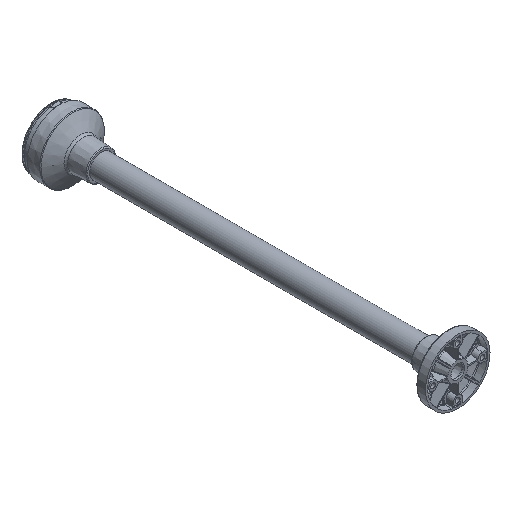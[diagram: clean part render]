
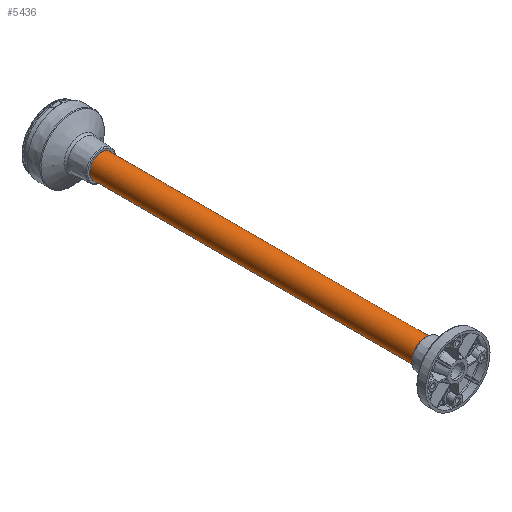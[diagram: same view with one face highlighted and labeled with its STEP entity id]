
A CAD part, isometric view. The second image highlights one B-rep face of the part: STEP entity #5436.
In plain terms, the highlighted cylindrical face has radius 12.7 mm (diameter 25.4 mm), a full revolution.
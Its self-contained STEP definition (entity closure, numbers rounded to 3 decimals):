
#4827=CYLINDRICAL_SURFACE('',#24119,12.7);
#5090=FACE_BOUND('',#8758,.T.);
#5091=FACE_BOUND('',#8759,.T.);
#5436=ADVANCED_FACE('',(#5090,#5091),#4827,.T.);
#8758=EDGE_LOOP('',(#10327,#10328,#10329,#10330));
#8759=EDGE_LOOP('',(#10331,#10332,#10333,#10334));
#10327=ORIENTED_EDGE('',*,*,#19621,.F.);
#10328=ORIENTED_EDGE('',*,*,#19622,.T.);
#10329=ORIENTED_EDGE('',*,*,#19620,.F.);
#10330=ORIENTED_EDGE('',*,*,#19623,.T.);
#10331=ORIENTED_EDGE('',*,*,#19616,.T.);
#10332=ORIENTED_EDGE('',*,*,#19624,.T.);
#10333=ORIENTED_EDGE('',*,*,#19618,.T.);
#10334=ORIENTED_EDGE('',*,*,#19625,.T.);
#17341=VERTEX_POINT('',#32768);
#17342=VERTEX_POINT('',#32769);
#17343=VERTEX_POINT('',#32773);
#17344=VERTEX_POINT('',#32774);
#17345=VERTEX_POINT('',#32778);
#17346=VERTEX_POINT('',#32779);
#17347=VERTEX_POINT('',#32783);
#17348=VERTEX_POINT('',#32784);
#19616=EDGE_CURVE('',#17342,#17341,#23126,.T.);
#19618=EDGE_CURVE('',#17344,#17343,#23128,.T.);
#19620=EDGE_CURVE('',#17345,#17346,#23130,.T.);
#19621=EDGE_CURVE('',#17347,#17348,#23131,.T.);
#19622=EDGE_CURVE('',#17347,#17346,#23132,.T.);
#19623=EDGE_CURVE('',#17345,#17348,#23133,.T.);
#19624=EDGE_CURVE('',#17341,#17344,#23134,.T.);
#19625=EDGE_CURVE('',#17343,#17342,#23135,.T.);
#23126=CIRCLE('',#24106,12.7);
#23128=CIRCLE('',#24109,12.7);
#23130=CIRCLE('',#24112,12.7);
#23131=CIRCLE('',#24114,12.7);
#23132=CIRCLE('',#24115,12.7);
#23133=CIRCLE('',#24116,12.7);
#23134=CIRCLE('',#24117,12.7);
#23135=CIRCLE('',#24118,12.7);
#24106=AXIS2_PLACEMENT_3D('',#32770,#26358,#26359);
#24109=AXIS2_PLACEMENT_3D('',#32775,#26364,#26365);
#24112=AXIS2_PLACEMENT_3D('',#32780,#26370,#26371);
#24114=AXIS2_PLACEMENT_3D('',#32782,#26374,#26375);
#24115=AXIS2_PLACEMENT_3D('',#32785,#26376,#26377);
#24116=AXIS2_PLACEMENT_3D('',#32786,#26378,#26379);
#24117=AXIS2_PLACEMENT_3D('',#32787,#26380,#26381);
#24118=AXIS2_PLACEMENT_3D('',#32788,#26382,#26383);
#24119=AXIS2_PLACEMENT_3D('',#32789,#26384,#26385);
#26358=DIRECTION('',(0.,1.,0.));
#26359=DIRECTION('',(1.,0.,0.));
#26364=DIRECTION('',(0.,1.,0.));
#26365=DIRECTION('',(1.,0.,0.));
#26370=DIRECTION('',(0.,1.,0.));
#26371=DIRECTION('',(1.,0.,0.));
#26374=DIRECTION('',(0.,1.,0.));
#26375=DIRECTION('',(1.,0.,0.));
#26376=DIRECTION('',(0.,-1.,0.));
#26377=DIRECTION('',(0.036,0.,-0.999));
#26378=DIRECTION('',(0.,-1.,0.));
#26379=DIRECTION('',(-1.,0.,0.));
#26380=DIRECTION('',(0.,1.,0.));
#26381=DIRECTION('',(-1.,0.,0.));
#26382=DIRECTION('',(0.,1.,0.));
#26383=DIRECTION('',(0.416,0.,0.909));
#26384=DIRECTION('',(0.,1.,0.));
#26385=DIRECTION('',(-1.,0.,0.));
#32768=CARTESIAN_POINT('',(-5.87,-370.7,-11.262));
#32769=CARTESIAN_POINT('',(-3.813,-370.7,-12.114));
#32770=CARTESIAN_POINT('',(0.,-370.7,0.));
#32773=CARTESIAN_POINT('',(5.282,-370.7,11.55));
#32774=CARTESIAN_POINT('',(4.432,-370.7,11.902));
#32775=CARTESIAN_POINT('',(0.,-370.7,0.));
#32778=CARTESIAN_POINT('',(-1.113,24.3,12.651));
#32779=CARTESIAN_POINT('',(1.113,24.3,12.651));
#32780=CARTESIAN_POINT('',(0.,24.3,0.));
#32782=CARTESIAN_POINT('',(0.,24.3,0.));
#32783=CARTESIAN_POINT('',(0.46,24.3,-12.692));
#32784=CARTESIAN_POINT('',(-0.46,24.3,-12.692));
#32785=CARTESIAN_POINT('',(0.,24.3,0.));
#32786=CARTESIAN_POINT('',(0.,24.3,0.));
#32787=CARTESIAN_POINT('',(0.,-370.7,0.));
#32788=CARTESIAN_POINT('',(0.,-370.7,0.));
#32789=CARTESIAN_POINT('',(0.,-370.7,0.));
